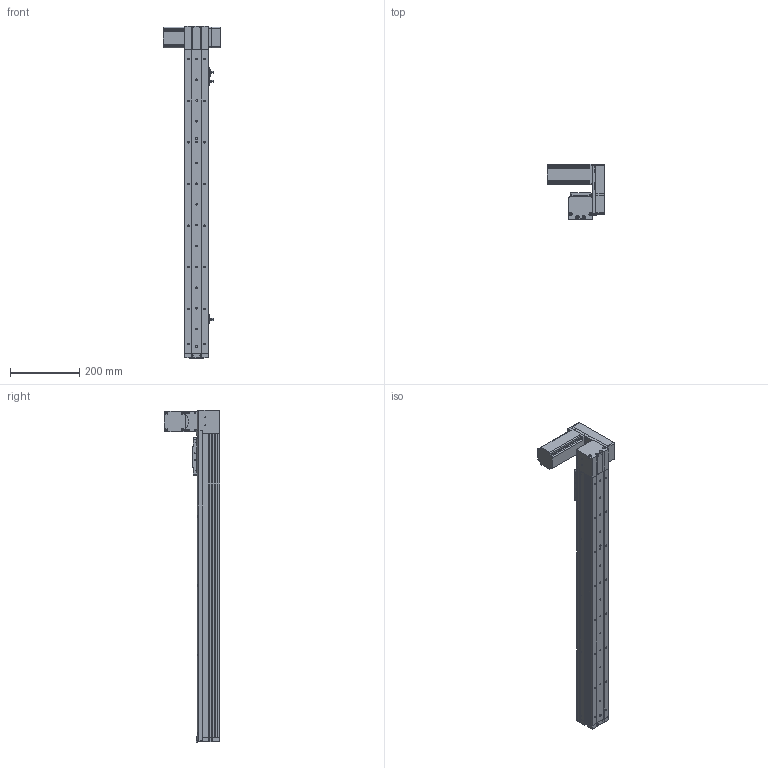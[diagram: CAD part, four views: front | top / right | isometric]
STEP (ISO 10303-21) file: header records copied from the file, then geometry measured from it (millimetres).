
FILE_DESCRIPTION (( 'STEP AP214' ), '1' );
FILE_NAME ('KSD68BS-S700-MLU-CR.STEP', '2019-08-27T08:08:39', ( '微软用户' ), ( '微软中国' ), 'SwSTEP 2.0', 'SolidWorks 2014', '' );
FILE_SCHEMA (( 'AUTOMOTIVE_DESIGN' ));
Length unit declared in the file: millimetre
Products named in the file (14): KSD68BS 700行程侧板全封闭; KSD68BS 700行程盖板全封闭; 68宽单导轨全封闭同步带端板; 68遵裔啣揤啣1; 68单导轨全封闭同步带电机座左; 68单导轨全封闭同步带安装板; 悵誘欶奻狟殏; 68宽马达安装板连板上折同步带; 感应片68宽全封闭; U倰嫖萇EEㄜSX672; 台达ECMA－C20604AS伺服电机（400W); KSD68BS 700行程底板全封闭; KSD68BS-S700-MLU-CR; 68宽单导轨全封闭丝杆传动安装板1防护罩
Assembly tree (17 placements, depth 2):
  KSD68BS-S700-MLU-CR
    KSD68BS 700行程底板全封闭
    台达ECMA－C20604AS伺服电机（400W)
    U倰嫖萇EEㄜSX672  x3
    感应片68宽全封闭
    68宽马达安装板连板上折同步带
    悵誘欶奻狟殏
    68单导轨全封闭同步带安装板
    68单导轨全封闭同步带电机座左
    68宽单导轨全封闭同步带端板
    KSD68BS 700行程侧板全封闭  x2
    68宽单导轨全封闭丝杆传动安装板1防护罩
    68遵裔啣揤啣1  x2
    KSD68BS 700行程盖板全封闭
Bounding box: 167.2 x 159.5 x 958.1 mm (x, y, z)
Volume: 2132189.1 mm3; surface area: 781350.5 mm2
Topology: 18 solids, 18 shells, 1455 faces, 4121 edges, 2642 vertices
Faces by surface type: cylinder 678, plane 625, cone 152
Entity records: 45771 total; most frequent: CARTESIAN_POINT 7819, DIRECTION 6878, ORIENTED_EDGE 6586, EDGE_CURVE 3293, AXIS2_PLACEMENT_3D 2469, VERTEX_POINT 2160, LINE 1940, VECTOR 1940
